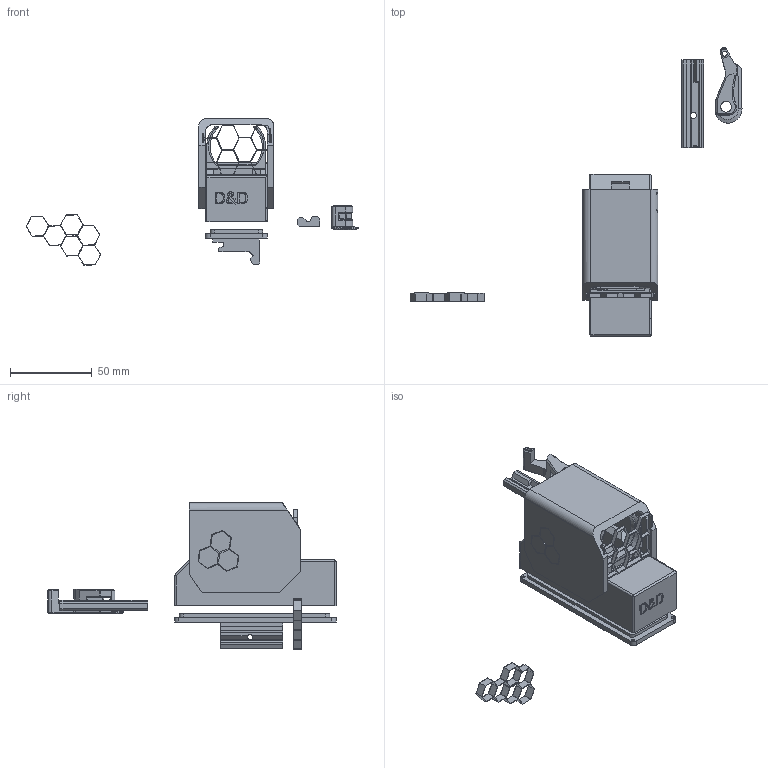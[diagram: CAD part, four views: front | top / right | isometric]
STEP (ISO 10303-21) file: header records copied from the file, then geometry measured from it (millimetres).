
FILE_DESCRIPTION(/* description */ (''),/* implementation_level */ '2;1');
FILE_NAME(/* name */ 'C:/Users/daixi/Desktop/s-n-7.stp',/* time_stamp */ '2025-07-07T03:25:50+08:00',/* author */ (''),/* organization */ (''),/* preprocessor_version */ 'ST-DEVELOPER v15.2',/* originating_system */ 'Autodesk Translator Framework v2.0.0.5431',/* authorisation */ '');
FILE_SCHEMA (('AUTOMOTIVE_DESIGN { 1 0 10303 214 3 1 1 }'));
Length unit declared in the file: centimetre
Products named in the file (1): sn-5-sort
Bounding box: 203.13 x 176.6 x 89.69 mm (x, y, z)
Volume: 107099.6 mm3; surface area: 70399 mm2
Topology: 15 solids, 15 shells, 841 faces, 2286 edges, 1498 vertices
Faces by surface type: plane 670, cylinder 75, bspline 73, cone 21, torus 2
Full cylindrical faces by diameter (mm): 0.135 x1, 1.8 x8, 2.8 x3, 3 x1, 3.2 x1, 3.6 x2, 3.8 x3, 6 x2, 6.7 x1, 7 x1
Entity records: 26998 total; most frequent: CARTESIAN_POINT 6167, ORIENTED_EDGE 4496, DIRECTION 3835, EDGE_CURVE 2248, LINE 1893, VECTOR 1893, VERTEX_POINT 1487, AXIS2_PLACEMENT_3D 971
